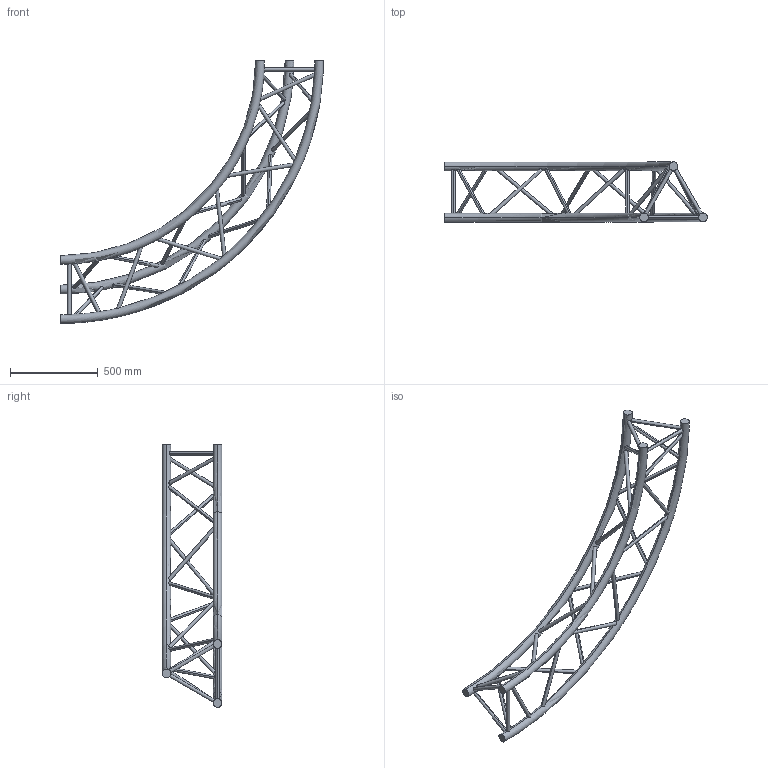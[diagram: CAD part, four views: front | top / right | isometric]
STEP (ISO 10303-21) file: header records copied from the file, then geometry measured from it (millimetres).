
FILE_DESCRIPTION (( 'STEP AP203' ), '1' );
FILE_NAME ('SXC39300PH.STEP', '2009-10-21T11:24:51', ( 'CEDIA' ), ( 'CEDIA INDUSTRIE' ), 'SwSTEP 2.0', 'SolidWorks 2009', '' );
FILE_SCHEMA (( 'CONFIG_CONTROL_DESIGN' ));
Length unit declared in the file: millimetre
Products named in the file (1): SXC39300PH
Bounding box: 1500 x 341.85 x 1500 mm (x, y, z)
Volume: 15028178.6 mm3; surface area: 1548025 mm2
Topology: 1 solids, 1 shells, 66 faces, 198 edges, 120 vertices
Faces by surface type: cylinder 54, torus 6, plane 6
Entity records: 7422 total; most frequent: CARTESIAN_POINT 5676, ORIENTED_EDGE 396, DIRECTION 260, EDGE_CURVE 198, VERTEX_POINT 120, B_SPLINE_CURVE_WITH_KNOTS 108, AXIS2_PLACEMENT_3D 103, EDGE_LOOP 102
